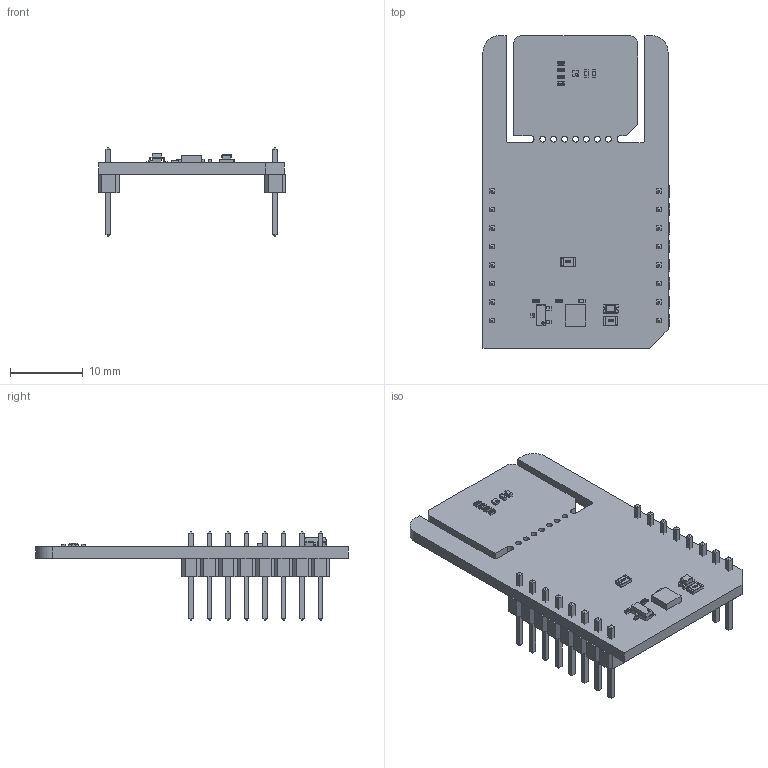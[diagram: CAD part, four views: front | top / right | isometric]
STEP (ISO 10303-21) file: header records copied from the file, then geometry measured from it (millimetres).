
FILE_DESCRIPTION(('Open CASCADE Model'),'2;1');
FILE_NAME('Open CASCADE Shape Model','2026-03-19T12:52:18',('Author'),( 'Open CASCADE'),'Open CASCADE STEP processor 7.5','Open CASCADE 7.5' ,'Unknown');
FILE_SCHEMA(('AUTOMOTIVE_DESIGN { 1 0 10303 214 1 1 1 1 }'));
Length unit declared in the file: millimetre
Products named in the file (36): PCB; Board; Open CASCADE STEP translator 7.5 1.1.1; U2; 7002657984; Extruded; 8640030240; Cylinder; R7; User Library-R_0402; R6; R5; R4; C3; User Library-SMD CAPACITOR0402; C2; U1; 7002658944; Q1; SOT23-3; R3; C1; R2; LD1; led_0805_green; R1; User Library-R_0805; MBD1; Header 1x8; Free-Models; 1240637040; User_Library-PinHeaderX5-1_PinHeaderX5_Body_1; User_Library-PinHeaderX5-1_PinHeaderX5_Pins_1; JP1
Assembly tree (45 placements, depth 7):
  PCB
    Board
      Open CASCADE STEP translator 7.5 1.1.1
    U2
      7002657984
        Extruded
      8640030240
        Cylinder
    R7
      User Library-R_0402
    R6
      User Library-R_0402
    R5
      User Library-R_0402
    R4
      User Library-R_0402
    C3
      User Library-SMD CAPACITOR0402
    C2
      User Library-SMD CAPACITOR0402
    U1
      7002658944
        Extruded
    Q1
      SOT23-3
    R3
      User Library-R_0402
    C1
      User Library-SMD CAPACITOR0402
    R2
      User Library-R_0402
    LD1
      led_0805_green
    R1
      User Library-R_0805
    MBD1
      Header 1x8  x2
        PCB
          Free-Models
            1240637040  x2
              User_Library-PinHeaderX5-1_PinHeaderX5_Body_1
              User_Library-PinHeaderX5-1_PinHeaderX5_Pins_1
    JP1
      User Library-R_0805
Bounding box: 25.78 x 42.93 x 12.19 mm (x, y, z)
Volume: 2144.9 mm3; surface area: 3866.7 mm2
Topology: 49 solids, 49 shells, 1467 faces, 3670 edges, 2340 vertices
Faces by surface type: plane 1110, bspline 240, cylinder 87, sphere 30
Full cylindrical faces by diameter (mm): 0.3 x1, 0.8 x7
Entity records: 22031 total; most frequent: CARTESIAN_POINT 6974, ORIENTED_EDGE 2478, DIRECTION 2174, EDGE_CURVE 1239, LINE 986, VECTOR 986, VERTEX_POINT 794, AXIS2_PLACEMENT_3D 594
